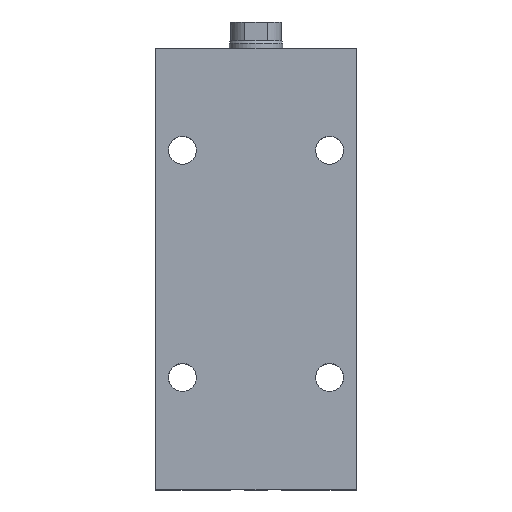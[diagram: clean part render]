
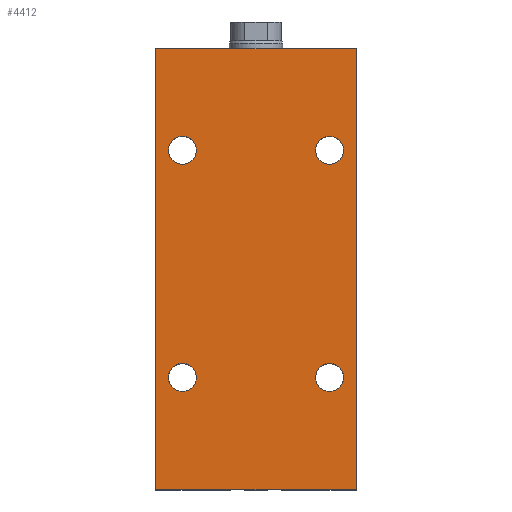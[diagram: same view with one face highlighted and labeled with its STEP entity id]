
A CAD part, top view. The second image highlights one B-rep face of the part: STEP entity #4412.
In plain terms, the highlighted planar face has unit normal (0, 0, 1).
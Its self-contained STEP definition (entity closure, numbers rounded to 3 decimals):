
#10 = EDGE_LOOP ( 'NONE', ( #2348, #3334 ) ) ;
#31 = AXIS2_PLACEMENT_3D ( 'NONE', #3895, #1624, #4284 ) ;
#94 = VERTEX_POINT ( 'NONE', #471 ) ;
#142 = DIRECTION ( 'NONE',  ( 1., 0., 0. ) ) ;
#159 = FACE_BOUND ( 'NONE', #4611, .T. ) ;
#201 = CARTESIAN_POINT ( 'NONE',  ( -27.5, 42., 27.5 ) ) ;
#223 = DIRECTION ( 'NONE',  ( 0., 0., 1. ) ) ;
#312 = CARTESIAN_POINT ( 'NONE',  ( -27.5, 42., 27.5 ) ) ;
#387 = AXIS2_PLACEMENT_3D ( 'NONE', #2779, #2403, #1979 ) ;
#417 = VECTOR ( 'NONE', #3175, 1000. ) ;
#471 = CARTESIAN_POINT ( 'NONE',  ( 32.75, 42., 27.5 ) ) ;
#518 = CARTESIAN_POINT ( 'NONE',  ( 37.5, 165., 27.5 ) ) ;
#614 = CARTESIAN_POINT ( 'NONE',  ( -32.75, 42., 27.5 ) ) ;
#716 = DIRECTION ( 'NONE',  ( 1., 0., 0. ) ) ;
#767 = DIRECTION ( 'NONE',  ( 0., -1., 0. ) ) ;
#768 = LINE ( 'NONE', #4264, #3547 ) ;
#830 = EDGE_CURVE ( 'NONE', #2967, #1241, #1854, .T. ) ;
#960 = CARTESIAN_POINT ( 'NONE',  ( -37.5, 65., 27.5 ) ) ;
#966 = FACE_BOUND ( 'NONE', #10, .T. ) ;
#986 = VERTEX_POINT ( 'NONE', #2555 ) ;
#994 = CARTESIAN_POINT ( 'NONE',  ( 22.25, 127., 27.5 ) ) ;
#1183 = VERTEX_POINT ( 'NONE', #4185 ) ;
#1231 = DIRECTION ( 'NONE',  ( 1., 0., 0. ) ) ;
#1234 = AXIS2_PLACEMENT_3D ( 'NONE', #201, #223, #142 ) ;
#1241 = VERTEX_POINT ( 'NONE', #1943 ) ;
#1345 = DIRECTION ( 'NONE',  ( -1., 0., 0. ) ) ;
#1422 = AXIS2_PLACEMENT_3D ( 'NONE', #2853, #2872, #2909 ) ;
#1470 = EDGE_LOOP ( 'NONE', ( #3447, #4375 ) ) ;
#1502 = CARTESIAN_POINT ( 'NONE',  ( -37.5, 165., 27.5 ) ) ;
#1540 = CARTESIAN_POINT ( 'NONE',  ( -37.5, 65., 27.5 ) ) ;
#1569 = CIRCLE ( 'NONE', #1422, 5.25 ) ;
#1575 = DIRECTION ( 'NONE',  ( 0., 0., 1. ) ) ;
#1624 = DIRECTION ( 'NONE',  ( 0., 0., 1. ) ) ;
#1765 = EDGE_CURVE ( 'NONE', #1241, #2967, #1569, .T. ) ;
#1807 = CIRCLE ( 'NONE', #387, 5.25 ) ;
#1854 = CIRCLE ( 'NONE', #3148, 5.25 ) ;
#1943 = CARTESIAN_POINT ( 'NONE',  ( -32.75, 127., 27.5 ) ) ;
#1975 = VERTEX_POINT ( 'NONE', #3748 ) ;
#1979 = DIRECTION ( 'NONE',  ( 1., 0., 0. ) ) ;
#2021 = EDGE_LOOP ( 'NONE', ( #3092, #3105, #2397, #2451 ) ) ;
#2125 = EDGE_CURVE ( 'NONE', #3434, #3343, #4655, .T. ) ;
#2154 = LINE ( 'NONE', #3639, #3008 ) ;
#2205 = EDGE_CURVE ( 'NONE', #1183, #2915, #3275, .T. ) ;
#2219 = ORIENTED_EDGE ( 'NONE', *, *, #2125, .F. ) ;
#2290 = ORIENTED_EDGE ( 'NONE', *, *, #3641, .F. ) ;
#2348 = ORIENTED_EDGE ( 'NONE', *, *, #3708, .F. ) ;
#2397 = ORIENTED_EDGE ( 'NONE', *, *, #4295, .F. ) ;
#2403 = DIRECTION ( 'NONE',  ( 0., 0., 1. ) ) ;
#2444 = EDGE_CURVE ( 'NONE', #3677, #1975, #3445, .T. ) ;
#2451 = ORIENTED_EDGE ( 'NONE', *, *, #3616, .T. ) ;
#2485 = CARTESIAN_POINT ( 'NONE',  ( -22.25, 127., 27.5 ) ) ;
#2555 = CARTESIAN_POINT ( 'NONE',  ( 22.25, 42., 27.5 ) ) ;
#2621 = ORIENTED_EDGE ( 'NONE', *, *, #4068, .F. ) ;
#2779 = CARTESIAN_POINT ( 'NONE',  ( 27.5, 42., 27.5 ) ) ;
#2787 = DIRECTION ( 'NONE',  ( 1., 0., 0. ) ) ;
#2789 = CIRCLE ( 'NONE', #31, 5.25 ) ;
#2814 = EDGE_LOOP ( 'NONE', ( #2219, #2290 ) ) ;
#2820 = PLANE ( 'NONE',  #4694 ) ;
#2853 = CARTESIAN_POINT ( 'NONE',  ( -27.5, 127., 27.5 ) ) ;
#2865 = DIRECTION ( 'NONE',  ( 0., -1., 0. ) ) ;
#2872 = DIRECTION ( 'NONE',  ( 0., 0., 1. ) ) ;
#2876 = DIRECTION ( 'NONE',  ( 0., 0., 1. ) ) ;
#2906 = CIRCLE ( 'NONE', #3673, 5.25 ) ;
#2909 = DIRECTION ( 'NONE',  ( 1., 0., 0. ) ) ;
#2915 = VERTEX_POINT ( 'NONE', #614 ) ;
#2928 = CARTESIAN_POINT ( 'NONE',  ( -27.5, 127., 27.5 ) ) ;
#2951 = FACE_BOUND ( 'NONE', #2814, .T. ) ;
#2967 = VERTEX_POINT ( 'NONE', #2485 ) ;
#2977 = DIRECTION ( 'NONE',  ( 0., 0., 1. ) ) ;
#2988 = EDGE_CURVE ( 'NONE', #986, #94, #1807, .T. ) ;
#3008 = VECTOR ( 'NONE', #2865, 1000. ) ;
#3092 = ORIENTED_EDGE ( 'NONE', *, *, #2444, .T. ) ;
#3105 = ORIENTED_EDGE ( 'NONE', *, *, #4564, .F. ) ;
#3127 = CARTESIAN_POINT ( 'NONE',  ( -37.5, 0., 27.5 ) ) ;
#3148 = AXIS2_PLACEMENT_3D ( 'NONE', #2928, #2876, #2787 ) ;
#3175 = DIRECTION ( 'NONE',  ( 1., 0., 0. ) ) ;
#3275 = CIRCLE ( 'NONE', #1234, 5.25 ) ;
#3334 = ORIENTED_EDGE ( 'NONE', *, *, #2988, .F. ) ;
#3343 = VERTEX_POINT ( 'NONE', #994 ) ;
#3378 = VECTOR ( 'NONE', #767, 1000. ) ;
#3381 = ORIENTED_EDGE ( 'NONE', *, *, #2205, .F. ) ;
#3434 = VERTEX_POINT ( 'NONE', #4077 ) ;
#3445 = LINE ( 'NONE', #3127, #417 ) ;
#3447 = ORIENTED_EDGE ( 'NONE', *, *, #830, .F. ) ;
#3473 = CARTESIAN_POINT ( 'NONE',  ( -37.5, 0., 27.5 ) ) ;
#3547 = VECTOR ( 'NONE', #1231, 1000. ) ;
#3583 = DIRECTION ( 'NONE',  ( 0., 0., -1. ) ) ;
#3613 = CIRCLE ( 'NONE', #3861, 5.25 ) ;
#3616 = EDGE_CURVE ( 'NONE', #4125, #3677, #4066, .T. ) ;
#3639 = CARTESIAN_POINT ( 'NONE',  ( 37.5, 65., 27.5 ) ) ;
#3641 = EDGE_CURVE ( 'NONE', #3343, #3434, #2906, .T. ) ;
#3673 = AXIS2_PLACEMENT_3D ( 'NONE', #3835, #1575, #4239 ) ;
#3677 = VERTEX_POINT ( 'NONE', #3473 ) ;
#3708 = EDGE_CURVE ( 'NONE', #94, #986, #2789, .T. ) ;
#3748 = CARTESIAN_POINT ( 'NONE',  ( 37.5, 0., 27.5 ) ) ;
#3835 = CARTESIAN_POINT ( 'NONE',  ( 27.5, 127., 27.5 ) ) ;
#3861 = AXIS2_PLACEMENT_3D ( 'NONE', #312, #2977, #716 ) ;
#3895 = CARTESIAN_POINT ( 'NONE',  ( 27.5, 42., 27.5 ) ) ;
#3983 = FACE_BOUND ( 'NONE', #1470, .T. ) ;
#4066 = LINE ( 'NONE', #1540, #3378 ) ;
#4068 = EDGE_CURVE ( 'NONE', #2915, #1183, #3613, .T. ) ;
#4077 = CARTESIAN_POINT ( 'NONE',  ( 32.75, 127., 27.5 ) ) ;
#4125 = VERTEX_POINT ( 'NONE', #1502 ) ;
#4185 = CARTESIAN_POINT ( 'NONE',  ( -22.25, 42., 27.5 ) ) ;
#4239 = DIRECTION ( 'NONE',  ( 1., 0., 0. ) ) ;
#4264 = CARTESIAN_POINT ( 'NONE',  ( -37.5, 165., 27.5 ) ) ;
#4284 = DIRECTION ( 'NONE',  ( 1., 0., 0. ) ) ;
#4295 = EDGE_CURVE ( 'NONE', #4125, #4357, #768, .T. ) ;
#4357 = VERTEX_POINT ( 'NONE', #518 ) ;
#4375 = ORIENTED_EDGE ( 'NONE', *, *, #1765, .F. ) ;
#4412 = ADVANCED_FACE ( 'NONE', ( #2951, #3983, #966, #159, #4871 ), #2820, .F. ) ;
#4535 = CARTESIAN_POINT ( 'NONE',  ( 27.5, 127., 27.5 ) ) ;
#4536 = DIRECTION ( 'NONE',  ( 0., 0., 1. ) ) ;
#4541 = DIRECTION ( 'NONE',  ( 1., 0., 0. ) ) ;
#4564 = EDGE_CURVE ( 'NONE', #4357, #1975, #2154, .T. ) ;
#4611 = EDGE_LOOP ( 'NONE', ( #3381, #2621 ) ) ;
#4655 = CIRCLE ( 'NONE', #4879, 5.25 ) ;
#4694 = AXIS2_PLACEMENT_3D ( 'NONE', #960, #3583, #1345 ) ;
#4871 = FACE_OUTER_BOUND ( 'NONE', #2021, .T. ) ;
#4879 = AXIS2_PLACEMENT_3D ( 'NONE', #4535, #4536, #4541 ) ;
